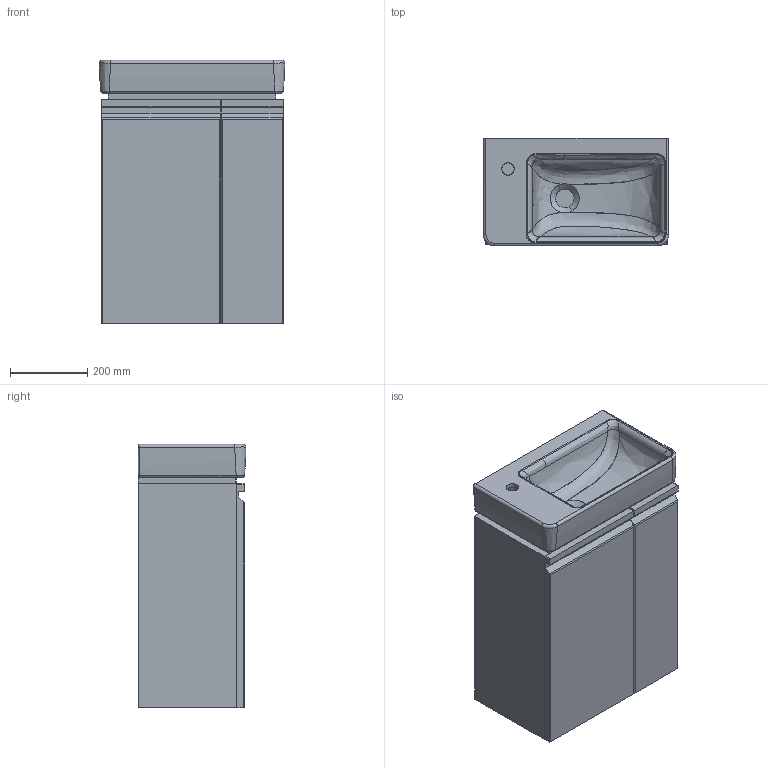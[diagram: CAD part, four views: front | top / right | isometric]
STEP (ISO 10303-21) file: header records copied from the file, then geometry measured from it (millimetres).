
FILE_DESCRIPTION(/* description */ (''),/* implementation_level */ '2;1');
FILE_NAME(/* name */ 'C:\Users\User33\Desktop\Pro S\3D01_483001.stp',/* time_stamp */ '2018-05-10T14:22:08+02:00',/* author */ ('User33'),/* organization */ (''),/* preprocessor_version */ 'ST-DEVELOPER v16.13',/* originating_system */ 'Autodesk Inventor 2018',/* authorisation */ '');
FILE_SCHEMA (('AUTOMOTIVE_DESIGN { 1 0 10303 214 3 1 1 }'));
Products named in the file (14): lavamani sx; lavamani sx_1_1; lavamani sx_1; lavamani sx_1_2; lavamani sx_2; lavamani sx_3; lavamani sx_4; lavamani sx_5; lavamani sx_6; lavamani sx_7; lavamani sx_8; lavamani sx_9; lavamani sx_10; lavamani sx_11
Assembly tree (13 placements, depth 2):
  lavamani sx
    lavamani sx_1_1
    lavamani sx_1
    lavamani sx_1_2
    lavamani sx_2
    lavamani sx_3
    lavamani sx_4
    lavamani sx_5
    lavamani sx_6
    lavamani sx_7
    lavamani sx_8
    lavamani sx_9
    lavamani sx_10
    lavamani sx_11
Bounding box: 479.94 x 279.47 x 681.5 mm (x, y, z)
Volume: 15240600.7 mm3; surface area: 2590013 mm2
Topology: 12 solids, 369 shells, 465 faces, 1931 edges, 1833 vertices
Faces by surface type: bspline 237, plane 119, cylinder 82, torus 10, sphere 10, cone 7
Entity records: 97222 total; most frequent: CARTESIAN_POINT 82641, DIRECTION 2289, ORIENTED_EDGE 2165, EDGE_CURVE 1917, VERTEX_POINT 1833, AXIS2_PLACEMENT_3D 887, B_SPLINE_CURVE_WITH_KNOTS 770, LINE 515
